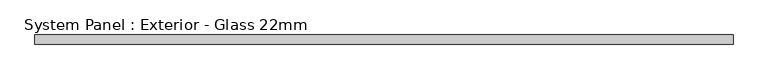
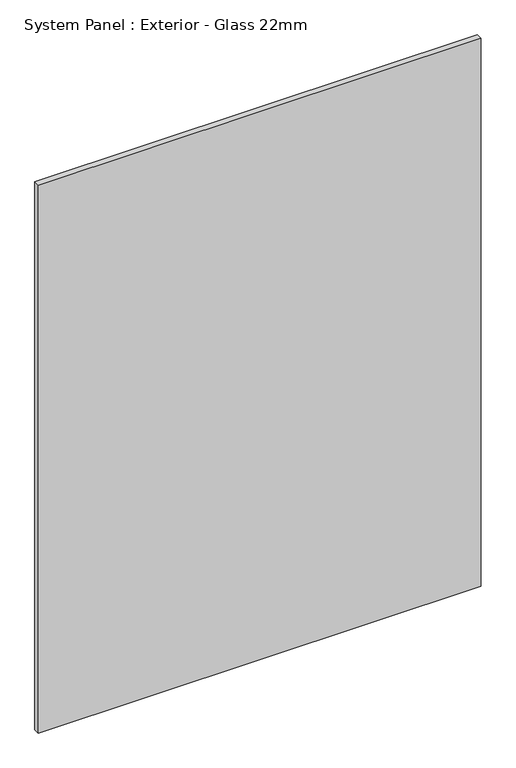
"""IFC4 building model written with IfcOpenShell, lengths in millimetres: plate geometry, System Panel : Exterior - Glass 22mm."""

from ifc_helpers import new_model, si_unit, origin, origin_with_axes, place, context, project, spatial, polyline, outline, extrude, source, transform, mapped, element, save


def system_panel_exterior_glass_22mm_baca3ab9(model_context):
    return source(origin(), model_context, "Body", "SweptSolid", [
        extrude(outline(polyline([(802.5, -50.0), (-802.5, -50.0), (-802.5, -28.0), (802.5, -28.0), (802.5, -50.0)])), origin_with_axes(), (0.0, 0.0, 1.0), 2100.0),
    ])


if __name__ == "__main__":
    model = new_model("IFC4")
    model_context = context("Model", 3, world=origin())
    ifc_project = project(units=[si_unit("LENGTHUNIT", "METRE", prefix="MILLI")], contexts=[model_context])
    site = spatial("IfcSite", under=ifc_project)
    building = spatial("IfcBuilding", under=site)
    placement = place(None, origin())
    system_panel_exterior_glass_22mm_shape = system_panel_exterior_glass_22mm_baca3ab9(model_context)
    element("IfcPlate", 1, ObjectType="System Panel : Exterior - Glass 22mm", at=placement, inside=building, context=model_context, shape_type="MappedRepresentation", body=[
        mapped(system_panel_exterior_glass_22mm_shape, transform((0.0, 0.0, 0.0), x_axis=(1.0, 0.0, 0.0), y_axis=(0.0, 1.0, 0.0), z_axis=(0.0, 0.0, 1.0))),
    ])
    save(model, "model.ifc")
